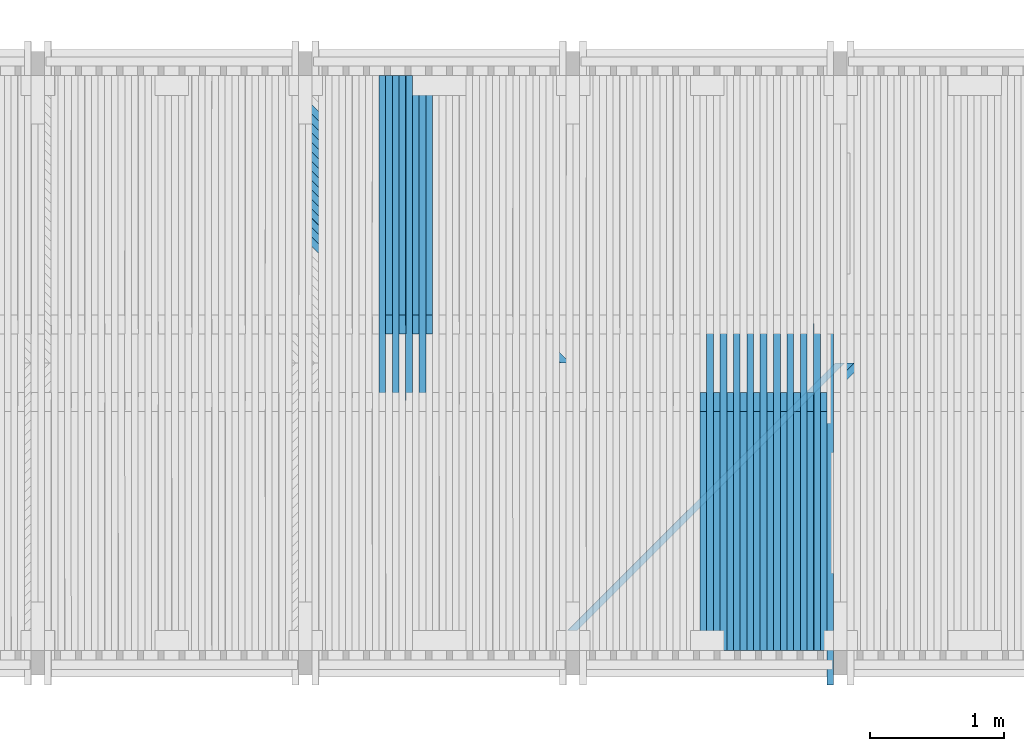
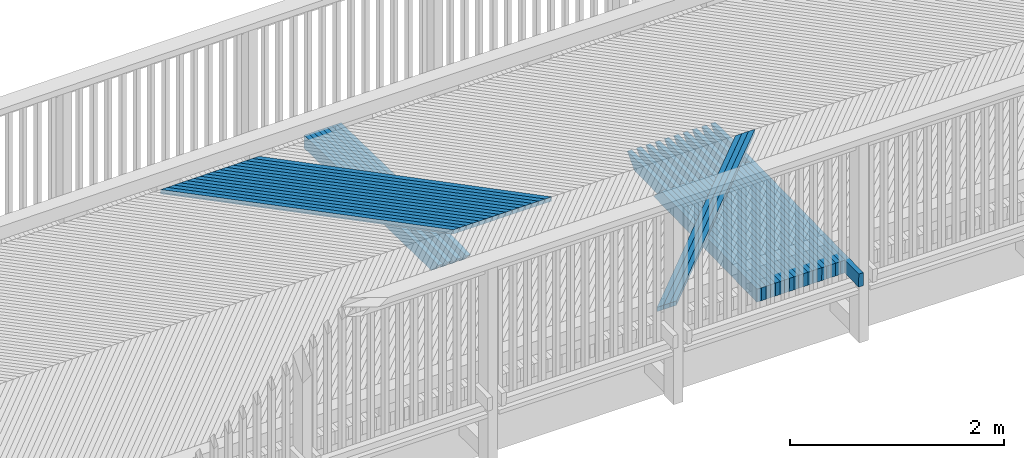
# One storey, part 24 of 52: 46 beams.
"""IFC2X3 building model written with IfcOpenShell, lengths in millimetres."""

from ifc_helpers import new_model, si_unit, frame, origin_with_axes, place, context, subcontext, project, spatial, faceted_brep, material, type_object, element, save


model = new_model("IFC2X3")

# Units and contexts
model_context = context("Model", 3, precision=1e-05, world=origin_with_axes())
body_context = subcontext(model_context, "Body", "Model", "MODEL_VIEW")
ifc_project = project(units=[si_unit("LENGTHUNIT", "METRE", prefix="MILLI"), si_unit("AREAUNIT", "SQUARE_METRE"), si_unit("VOLUMEUNIT", "CUBIC_METRE"), si_unit("MASSUNIT", "GRAM", prefix="KILO"), si_unit("TIMEUNIT", "SECOND"), si_unit("PLANEANGLEUNIT", "RADIAN"), si_unit("SOLIDANGLEUNIT", "STERADIAN"), si_unit("THERMODYNAMICTEMPERATUREUNIT", "DEGREE_CELSIUS"), si_unit("LUMINOUSINTENSITYUNIT", "LUMEN")], contexts=[model_context])

# Site, building, storey
site_placement = place(None, origin_with_axes())
site = spatial("IfcSite", under=ifc_project, at=site_placement, Name="Undefined", CompositionType="ELEMENT")
building_placement = place(site_placement, origin_with_axes())
building = spatial("IfcBuilding", under=site, at=building_placement, Name="Undefined", CompositionType="ELEMENT")
storey_placement = place(building_placement, origin_with_axes())
storey = spatial("IfcBuildingStorey", under=building, at=storey_placement, Name="Undefined", CompositionType="ELEMENT", Elevation=0.0)

# Beams
ifc_material = material(Name="TIMBER/Timber_Undefined")
beam_type_1 = type_object("IfcBeamType", Name="50*50", PredefinedType="NOTDEFINED")
for number, where, z_axis, x_axis, name in (
    (1, (8135.80655611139, 2364.50010032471, 3236.10674438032), (0.707111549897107, -0.706981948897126, -0.0130299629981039), (-0.707100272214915, -0.706948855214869, -0.0152486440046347), "BEAM"),
    (2, (8065.0823236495, 2364.50010032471, 3236.11854265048), (0.70711307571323, -0.706981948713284, -0.0129469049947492), (-0.70709847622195, -0.706948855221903, -0.0153317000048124), "BEAM"),
    (3, (7994.35809028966, 2364.50010032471, 3236.12203360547), (0.707114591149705, -0.706981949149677, -0.0128638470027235), (-0.707096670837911, -0.706948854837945, -0.0154147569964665), "BEAM"),
):
    element("IfcBeam", number, at=place(storey_placement, frame(where, z_axis=z_axis, x_axis=x_axis)), inside=storey, type_object=beam_type_1, material=ifc_material, Name=name, ObjectType="50*50", context=body_context, shape_type="Brep", body=[
        faceted_brep([(24.894245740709, 25.0, -25.0), (-25.0086637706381, 24.9999999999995, 24.9999999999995), (2804.3406783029, 25.0000000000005, 25.0000000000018), (2854.34301907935, 25.0, -24.9999999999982), (-26.4222658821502, -25.0, 24.9999999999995), (2802.92643296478, -25.0, 25.0000000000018), (23.4806436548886, -25.0, -25.0), (2852.92877373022, -25.0, -24.9999999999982)], [[[0, 1, 2, 3]], [[1, 4, 5, 2]], [[4, 6, 7, 5]], [[6, 0, 3, 7]], [[5, 7, 3, 2]], [[6, 4, 1, 0]]]),
    ])
for number, where, z_axis, x_axis, name in (
    (4, (5943.35931839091, 2365.49989967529, 3232.6095926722), (0.70715430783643, 0.706981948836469, -0.0104550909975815), (-0.707040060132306, 0.706948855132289, -0.0178232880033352), "BEAM"),
    (5, (5872.63551183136, 2365.49989967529, 3232.36386467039), (0.707155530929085, 0.706981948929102, -0.0103720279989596), (-0.707037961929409, 0.706948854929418, -0.0179063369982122), "BEAM"),
    (6, (5801.91173462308, 2365.49989967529, 3232.10982940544), (0.707156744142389, 0.706981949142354, -0.0102889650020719), (-0.707035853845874, 0.706948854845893, -0.0179893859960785), "BEAM"),
    (7, (5731.18798774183, 2365.49989967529, 3231.84748688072), (0.707157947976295, 0.706981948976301, -0.010205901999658), (-0.707033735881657, 0.706948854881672, -0.0180724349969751), "BEAM"),
    (8, (5660.46427216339, 2365.49989967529, 3231.57683709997), (0.707159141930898, 0.706981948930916, -0.0101228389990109), (-0.707031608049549, 0.706948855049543, -0.0181554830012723), "BEAM"),
    (9, (5589.74058886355, 2365.49989967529, 3231.29788006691), (0.707160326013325, 0.706981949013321, -0.0100397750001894), (-0.707029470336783, 0.706948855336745, -0.0182385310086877), "BEAM"),
    (10, (5519.01693881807, 2365.49989967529, 3231.01061578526), (0.707161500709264, 0.706981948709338, -0.00995671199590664), (-0.707027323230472, 0.706948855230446, -0.0183215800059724), "BEAM"),
    (11, (5448.29332300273, 2365.49989967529, 3230.71504425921), (0.707162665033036, 0.706981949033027, -0.00987364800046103), (-0.707025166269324, 0.706948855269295, -0.0184046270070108), "BEAM"),
    (12, (5377.5697423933, 2365.49989967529, 3230.41116549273), (0.707163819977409, 0.706981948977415, -0.00979058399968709), (-0.70702299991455, 0.70694885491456, -0.0184876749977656), "BEAM"),
    (13, (5306.84619796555, 2365.49989967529, 3230.09897948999), (0.707164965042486, 0.706981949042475, -0.00970752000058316), (-0.707020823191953, 0.706948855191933, -0.0185707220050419), "BEAM"),
    (14, (5236.12269069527, 2365.49989967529, 3229.77848625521), (0.707166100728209, 0.70698194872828, -0.00962445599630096), (-0.707018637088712, 0.706948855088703, -0.0186537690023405), "BEAM"),
    (15, (5165.39922155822, 2365.49989967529, 3229.44968579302), (0.707167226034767, 0.706981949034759, -0.00954139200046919), (-0.707016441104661, 0.706948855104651, -0.0187368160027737), "BEAM"),
    (16, (5094.67579153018, 2365.49989967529, 3229.11257810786), (0.707168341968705, 0.706981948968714, -0.00945832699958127), (-0.70701423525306, 0.706948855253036, -0.0188198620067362), "BEAM"),
    (17, (5023.95240158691, 2365.49989967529, 3228.76716320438), (0.707169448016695, 0.706981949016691, -0.00937526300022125), (-0.70701202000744, 0.706948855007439, -0.0189029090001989), "BEAM"),
    (18, (4953.22905270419, 2365.49989967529, 3228.41344108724), (0.707170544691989, 0.706981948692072, -0.00929219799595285), (-0.70700979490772, 0.706948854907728, -0.018985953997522), "BEAM"),
):
    element("IfcBeam", number, at=place(storey_placement, frame(where, z_axis=z_axis, x_axis=x_axis)), inside=storey, type_object=beam_type_1, material=ifc_material, Name=name, ObjectType="50*50", context=body_context, shape_type="Brep", body=[
        faceted_brep([(23.5869248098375, 25.0, -25.0000000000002), (-26.4154158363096, 25.0000000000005, 24.9999999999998), (2802.92643296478, 25.0, 24.9999999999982), (2852.92877373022, 25.0000000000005, -25.0), (-25.0011704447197, -25.0, 24.9999999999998), (2804.3406783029, -25.0000000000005, 24.9999999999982), (25.0011701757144, -25.0, -25.0), (2854.34301907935, -24.9999999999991, -25.0)], [[[0, 1, 2, 3]], [[1, 4, 5, 2]], [[4, 6, 7, 5]], [[6, 0, 3, 7]], [[5, 7, 3, 2]], [[6, 4, 1, 0]]]),
    ])
beam_type_2 = type_object("IfcBeamType", Name="150*50", PredefinedType="NOTDEFINED")
for number, where, z_axis, x_axis, name in (
    (19, (7875.75102646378, 216.50460761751, 3093.13715307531), (-0.000287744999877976, -0.0199960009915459, 0.999800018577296), (-5.75600000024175e-06, 0.999800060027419, 0.0199959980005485), "BEAM"),
    (20, (7775.73099692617, 216.50460761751, 3093.10819901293), (-0.000453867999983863, -0.0199960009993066, 0.999799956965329), (-9.07800000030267e-06, 0.999800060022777, 0.0199959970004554), "BEAM"),
):
    element("IfcBeam", number, at=place(storey_placement, frame(where, z_axis=z_axis, x_axis=x_axis)), inside=storey, type_object=beam_type_2, material=ifc_material, Name=name, ObjectType="150*50", context=body_context, shape_type="Brep", body=[
        faceted_brep([(-1.67788130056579e-07, -24.9999999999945, -74.9999999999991), (1.67786311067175e-07, -24.9999999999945, 75.0000000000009), (1.67786311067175e-07, 25.0000000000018, 75.0), (-1.67787220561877e-07, 25.0000000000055, -75.0), (1928.42646353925, -25.0, -75.0), (1789.96936433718, -25.0000000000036, 74.9999999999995), (1789.96936408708, 24.9999999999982, 75.0000000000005), (1928.42646328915, 24.9999999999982, -74.9999999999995)], [[[0, 1, 2, 3]], [[1, 0, 4, 5]], [[2, 1, 5, 6]], [[3, 2, 6, 7]], [[0, 3, 7, 4]], [[7, 6, 5, 4]]]),
    ])
beam_1_placement = place(storey_placement, frame((7825.75102780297, 216.504607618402, 3093.12259668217), z_axis=(-0.000287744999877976, -0.0199960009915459, 0.999800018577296), x_axis=(-5.75600000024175e-06, 0.999800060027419, 0.0199959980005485)))
element("IfcBeam", 21, at=beam_1_placement, inside=storey, type_object=beam_type_2, material=ifc_material, Name="BEAM", ObjectType="150*50", context=body_context, shape_type="Brep", body=[
    faceted_brep([(-1.67788130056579e-07, -24.9999999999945, -74.9999999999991), (1.67786311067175e-07, -24.9999999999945, 75.0000000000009), (1.67786311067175e-07, 25.0000000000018, 75.0), (-1.67787220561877e-07, 25.0000000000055, -75.0), (2375.00494422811, 25.0000000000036, -74.9999999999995), (2375.0049444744, -24.9999999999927, -74.9999999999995), (2510.5924871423, -24.9999999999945, 60.5875430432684), (2150.42514405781, -24.9999999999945, 75.0000000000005), (2150.42515052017, 25.0000000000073, 75.0), (2510.59248715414, 25.0000000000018, 60.5875433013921)], [[[0, 1, 2, 3]], [[0, 3, 4, 5]], [[1, 0, 5, 6, 7]], [[2, 1, 7, 8]], [[4, 3, 2, 8, 9]], [[5, 4, 9, 6]], [[6, 9, 8, 7]]]),
])
beam_2_placement = place(storey_placement, frame((7675.71097358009, 216.50460761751, 3093.06262608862), z_axis=(-0.000619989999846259, -0.0199960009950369, 0.999799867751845), x_axis=(-1.24010000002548e-05, 0.99980006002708, 0.0199959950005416)))
element("IfcBeam", 22, at=beam_2_placement, inside=storey, type_object=beam_type_2, material=ifc_material, Name="BEAM", ObjectType="150*50", context=body_context, shape_type="Brep", body=[
    faceted_brep([(-1.67788130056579e-07, -24.9999999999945, -74.9999999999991), (1.67786311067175e-07, -24.9999999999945, 75.0000000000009), (1.67786311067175e-07, 25.0000000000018, 75.0), (-1.67787220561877e-07, 25.0000000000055, -75.0), (1928.42646353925, -25.0, -75.0), (1789.96936433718, -25.0000000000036, 74.9999999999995), (1789.96936408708, 24.9999999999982, 75.0000000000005), (1928.42646328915, 24.9999999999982, -74.9999999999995)], [[[0, 1, 2, 3]], [[1, 0, 4, 5]], [[2, 1, 5, 6]], [[3, 2, 6, 7]], [[0, 3, 7, 4]], [[7, 6, 5, 4]]]),
])
beam_3_placement = place(storey_placement, frame((7725.73100137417, 216.504607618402, 3093.08533485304), z_axis=(-0.000453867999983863, -0.0199960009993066, 0.999799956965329), x_axis=(-9.07800000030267e-06, 0.999800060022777, 0.0199959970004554)))
element("IfcBeam", 23, at=beam_3_placement, inside=storey, type_object=beam_type_2, material=ifc_material, Name="BEAM", ObjectType="150*50", context=body_context, shape_type="Brep", body=[
    faceted_brep([(-1.67788130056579e-07, -24.9999999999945, -74.9999999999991), (1.67786311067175e-07, -24.9999999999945, 75.0000000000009), (1.67786311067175e-07, 25.0000000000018, 75.0), (-1.67787220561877e-07, 25.0000000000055, -75.0), (2375.00494422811, 25.0000000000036, -74.9999999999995), (2375.0049444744, -24.9999999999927, -74.9999999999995), (2510.5924871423, -24.9999999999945, 60.5875430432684), (2150.42514405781, -24.9999999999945, 75.0000000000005), (2150.42515052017, 25.0000000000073, 75.0), (2510.59248715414, 25.0000000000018, 60.5875433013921)], [[[0, 1, 2, 3]], [[0, 3, 4, 5]], [[1, 0, 5, 6, 7]], [[2, 1, 7, 8]], [[4, 3, 2, 8, 9]], [[5, 4, 9, 6]], [[6, 9, 8, 7]]]),
])
beam_4_placement = place(storey_placement, frame((7575.69095918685, 216.50460761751, 3093.00043430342), z_axis=(-0.00078611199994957, -0.019996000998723, 0.999799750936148), x_axis=(-1.57230000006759e-05, 0.999800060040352, 0.019995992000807)))
element("IfcBeam", 24, at=beam_4_placement, inside=storey, type_object=beam_type_2, material=ifc_material, Name="BEAM", ObjectType="150*50", context=body_context, shape_type="Brep", body=[
    faceted_brep([(-1.67788130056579e-07, -24.9999999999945, -74.9999999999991), (1.67786311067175e-07, -24.9999999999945, 75.0000000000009), (1.67786311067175e-07, 25.0000000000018, 75.0), (-1.67787220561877e-07, 25.0000000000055, -75.0), (1928.42646353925, -25.0, -75.0), (1789.96936433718, -25.0000000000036, 74.9999999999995), (1789.96936408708, 24.9999999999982, 75.0000000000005), (1928.42646328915, 24.9999999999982, -74.9999999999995)], [[[0, 1, 2, 3]], [[1, 0, 4, 5]], [[2, 1, 5, 6]], [[3, 2, 6, 7]], [[0, 3, 7, 4]], [[7, 6, 5, 4]]]),
])
beam_5_placement = place(storey_placement, frame((7625.71098251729, 216.504607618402, 3093.03145416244), z_axis=(-0.000619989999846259, -0.0199960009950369, 0.999799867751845), x_axis=(-1.24010000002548e-05, 0.99980006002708, 0.0199959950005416)))
element("IfcBeam", 25, at=beam_5_placement, inside=storey, type_object=beam_type_2, material=ifc_material, Name="BEAM", ObjectType="150*50", context=body_context, shape_type="Brep", body=[
    faceted_brep([(-1.67788130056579e-07, -24.9999999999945, -74.9999999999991), (1.67786311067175e-07, -24.9999999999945, 75.0000000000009), (1.67786311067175e-07, 25.0000000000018, 75.0), (-1.67787220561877e-07, 25.0000000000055, -75.0), (2375.00494422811, 25.0000000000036, -74.9999999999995), (2375.0049444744, -24.9999999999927, -74.9999999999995), (2510.5924871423, -24.9999999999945, 60.5875430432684), (2150.42514405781, -24.9999999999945, 75.0000000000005), (2150.42515052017, 25.0000000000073, 75.0), (2510.59248715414, 25.0000000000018, 60.5875433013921)], [[[0, 1, 2, 3]], [[0, 3, 4, 5]], [[1, 0, 5, 6, 7]], [[2, 1, 7, 8]], [[4, 3, 2, 8, 9]], [[5, 4, 9, 6]], [[6, 9, 8, 7]]]),
])
beam_6_placement = place(storey_placement, frame((7475.67095650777, 216.50460761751, 3092.92162365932), z_axis=(-0.000952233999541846, -0.0199960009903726, 0.999799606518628), x_axis=(-1.90460000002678e-05, 0.999800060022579, 0.0199959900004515)))
element("IfcBeam", 26, at=beam_6_placement, inside=storey, type_object=beam_type_2, material=ifc_material, Name="BEAM", ObjectType="150*50", context=body_context, shape_type="Brep", body=[
    faceted_brep([(-1.67788130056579e-07, -24.9999999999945, -74.9999999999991), (1.67786311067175e-07, -24.9999999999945, 75.0000000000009), (1.67786311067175e-07, 25.0000000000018, 75.0), (-1.67787220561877e-07, 25.0000000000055, -75.0), (1928.42646353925, -25.0, -75.0), (1789.96936433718, -25.0000000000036, 74.9999999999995), (1789.96936408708, 24.9999999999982, 75.0000000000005), (1928.42646328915, 24.9999999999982, -74.9999999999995)], [[[0, 1, 2, 3]], [[1, 0, 4, 5]], [[2, 1, 5, 6]], [[3, 2, 6, 7]], [[0, 3, 7, 4]], [[7, 6, 5, 4]]]),
])
beam_7_placement = place(storey_placement, frame((7525.69097399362, 216.504607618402, 3092.96095461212), z_axis=(-0.00078611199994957, -0.019996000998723, 0.999799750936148), x_axis=(-1.57230000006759e-05, 0.999800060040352, 0.019995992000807)))
element("IfcBeam", 27, at=beam_7_placement, inside=storey, type_object=beam_type_2, material=ifc_material, Name="BEAM", ObjectType="150*50", context=body_context, shape_type="Brep", body=[
    faceted_brep([(-1.67788130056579e-07, -24.9999999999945, -74.9999999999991), (1.67786311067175e-07, -24.9999999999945, 75.0000000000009), (1.67786311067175e-07, 25.0000000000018, 75.0), (-1.67787220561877e-07, 25.0000000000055, -75.0), (2375.00494422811, 25.0000000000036, -74.9999999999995), (2375.0049444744, -24.9999999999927, -74.9999999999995), (2510.5924871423, -24.9999999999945, 60.5875430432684), (2150.42514405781, -24.9999999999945, 75.0000000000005), (2150.42515052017, 25.0000000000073, 75.0), (2510.59248715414, 25.0000000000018, 60.5875433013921)], [[[0, 1, 2, 3]], [[0, 3, 4, 5]], [[1, 0, 5, 6, 7]], [[2, 1, 7, 8]], [[4, 3, 2, 8, 9]], [[5, 4, 9, 6]], [[6, 9, 8, 7]]]),
])
beam_8_placement = place(storey_placement, frame((7375.65096830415, 216.50460761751, 3092.82619415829), z_axis=(-0.00111835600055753, -0.0199960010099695, 0.999799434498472), x_axis=(-2.23680000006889e-05, 0.999800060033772, 0.0199959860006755)))
element("IfcBeam", 28, at=beam_8_placement, inside=storey, type_object=beam_type_2, material=ifc_material, Name="BEAM", ObjectType="150*50", context=body_context, shape_type="Brep", body=[
    faceted_brep([(-1.67788130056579e-07, -24.9999999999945, -74.9999999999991), (1.67786311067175e-07, -24.9999999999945, 75.0000000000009), (1.67786311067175e-07, 25.0000000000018, 75.0), (-1.67787220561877e-07, 25.0000000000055, -75.0), (1928.42646353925, -25.0, -75.0), (1789.96936433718, -25.0000000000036, 74.9999999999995), (1789.96936408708, 24.9999999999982, 75.0000000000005), (1928.42646328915, 24.9999999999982, -74.9999999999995)], [[[0, 1, 2, 3]], [[1, 0, 4, 5]], [[2, 1, 5, 6]], [[3, 2, 6, 7]], [[0, 3, 7, 4]], [[7, 6, 5, 4]]]),
])
beam_9_placement = place(storey_placement, frame((7425.67097856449, 216.504607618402, 3092.87383620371), z_axis=(-0.000952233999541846, -0.0199960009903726, 0.999799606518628), x_axis=(-1.90460000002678e-05, 0.999800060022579, 0.0199959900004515)))
element("IfcBeam", 29, at=beam_9_placement, inside=storey, type_object=beam_type_2, material=ifc_material, Name="BEAM", ObjectType="150*50", context=body_context, shape_type="Brep", body=[
    faceted_brep([(-1.67788130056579e-07, -24.9999999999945, -74.9999999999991), (1.67786311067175e-07, -24.9999999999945, 75.0000000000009), (1.67786311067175e-07, 25.0000000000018, 75.0), (-1.67787220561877e-07, 25.0000000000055, -75.0), (2375.00494422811, 25.0000000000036, -74.9999999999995), (2375.0049444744, -24.9999999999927, -74.9999999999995), (2510.5924871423, -24.9999999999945, 60.5875430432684), (2150.42514405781, -24.9999999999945, 75.0000000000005), (2150.42515052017, 25.0000000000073, 75.0), (2510.59248715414, 25.0000000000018, 60.5875433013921)], [[[0, 1, 2, 3]], [[0, 3, 4, 5]], [[1, 0, 5, 6, 7]], [[2, 1, 7, 8]], [[4, 3, 2, 8, 9]], [[5, 4, 9, 6]], [[6, 9, 8, 7]]]),
])
beam_10_placement = place(storey_placement, frame((7275.63099733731, 216.50460761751, 3092.71414580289), z_axis=(-0.00128447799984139, -0.0199960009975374, 0.99979923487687), x_axis=(-2.56900000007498e-05, 0.999800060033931, 0.0199959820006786)))
element("IfcBeam", 30, at=beam_10_placement, inside=storey, type_object=beam_type_2, material=ifc_material, Name="BEAM", ObjectType="150*50", context=body_context, shape_type="Brep", body=[
    faceted_brep([(-1.67788130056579e-07, -24.9999999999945, -74.9999999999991), (1.67786311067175e-07, -24.9999999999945, 75.0000000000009), (1.67786311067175e-07, 25.0000000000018, 75.0), (-1.67787220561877e-07, 25.0000000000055, -75.0), (1928.42646353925, -25.0, -75.0), (1789.96936433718, -25.0000000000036, 74.9999999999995), (1789.96936408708, 24.9999999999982, 75.0000000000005), (1928.42646328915, 24.9999999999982, -74.9999999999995)], [[[0, 1, 2, 3]], [[1, 0, 4, 5]], [[2, 1, 5, 6]], [[3, 2, 6, 7]], [[0, 3, 7, 4]], [[7, 6, 5, 4]]]),
])
beam_11_placement = place(storey_placement, frame((7325.6509989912, 216.504607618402, 3092.77009893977), z_axis=(-0.00111835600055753, -0.0199960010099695, 0.999799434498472), x_axis=(-2.23680000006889e-05, 0.999800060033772, 0.0199959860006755)))
element("IfcBeam", 31, at=beam_11_placement, inside=storey, type_object=beam_type_2, material=ifc_material, Name="BEAM", ObjectType="150*50", context=body_context, shape_type="Brep", body=[
    faceted_brep([(-1.67788130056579e-07, -24.9999999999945, -74.9999999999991), (1.67786311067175e-07, -24.9999999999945, 75.0000000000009), (1.67786311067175e-07, 25.0000000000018, 75.0), (-1.67787220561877e-07, 25.0000000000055, -75.0), (2375.00494422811, 25.0000000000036, -74.9999999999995), (2375.0049444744, -24.9999999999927, -74.9999999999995), (2510.5924871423, -24.9999999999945, 60.5875430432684), (2150.42514405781, -24.9999999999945, 75.0000000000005), (2150.42515052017, 25.0000000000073, 75.0), (2510.59248715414, 25.0000000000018, 60.5875433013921)], [[[0, 1, 2, 3]], [[0, 3, 4, 5]], [[1, 0, 5, 6, 7]], [[2, 1, 7, 8]], [[4, 3, 2, 8, 9]], [[5, 4, 9, 6]], [[6, 9, 8, 7]]]),
])
beam_12_placement = place(storey_placement, frame((7175.61104636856, 216.50460761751, 3092.58547859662), z_axis=(-0.00145059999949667, -0.01999600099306, 0.999799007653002), x_axis=(-2.90130000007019e-05, 0.999800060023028, 0.0199959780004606)))
element("IfcBeam", 32, at=beam_12_placement, inside=storey, type_object=beam_type_2, material=ifc_material, Name="BEAM", ObjectType="150*50", context=body_context, shape_type="Brep", body=[
    faceted_brep([(-1.67788130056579e-07, -24.9999999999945, -74.9999999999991), (1.67786311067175e-07, -24.9999999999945, 75.0000000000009), (1.67786311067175e-07, 25.0000000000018, 75.0), (-1.67787220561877e-07, 25.0000000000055, -75.0), (1928.42646353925, -25.0, -75.0), (1789.96936433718, -25.0000000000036, 74.9999999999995), (1789.96936408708, 24.9999999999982, 75.0000000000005), (1928.42646328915, 24.9999999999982, -74.9999999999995)], [[[0, 1, 2, 3]], [[1, 0, 4, 5]], [[2, 1, 5, 6]], [[3, 2, 6, 7]], [[0, 3, 7, 4]], [[7, 6, 5, 4]]]),
])
beam_13_placement = place(storey_placement, frame((7225.63103803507, 216.504607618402, 3092.64974282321), z_axis=(-0.00128447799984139, -0.0199960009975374, 0.99979923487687), x_axis=(-2.56900000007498e-05, 0.999800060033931, 0.0199959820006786)))
element("IfcBeam", 33, at=beam_13_placement, inside=storey, type_object=beam_type_2, material=ifc_material, Name="BEAM", ObjectType="150*50", context=body_context, shape_type="Brep", body=[
    faceted_brep([(-1.67788130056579e-07, -24.9999999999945, -74.9999999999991), (1.67786311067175e-07, -24.9999999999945, 75.0000000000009), (1.67786311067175e-07, 25.0000000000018, 75.0), (-1.67787220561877e-07, 25.0000000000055, -75.0), (2375.00494422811, 25.0000000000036, -74.9999999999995), (2375.0049444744, -24.9999999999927, -74.9999999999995), (2510.5924871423, -24.9999999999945, 60.5875430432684), (2150.42514405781, -24.9999999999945, 75.0000000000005), (2150.42515052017, 25.0000000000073, 75.0), (2510.59248715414, 25.0000000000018, 60.5875433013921)], [[[0, 1, 2, 3]], [[0, 3, 4, 5]], [[1, 0, 5, 6, 7]], [[2, 1, 7, 8]], [[4, 3, 2, 8, 9]], [[5, 4, 9, 6]], [[6, 9, 8, 7]]]),
])
beam_14_placement = place(storey_placement, frame((7075.5911181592, 216.50460761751, 3092.44019254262), z_axis=(-0.00161672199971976, -0.019996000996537, 0.999798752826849), x_axis=(-3.23350000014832e-05, 0.999800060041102, 0.019995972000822)))
element("IfcBeam", 34, at=beam_14_placement, inside=storey, type_object=beam_type_2, material=ifc_material, Name="BEAM", ObjectType="150*50", context=body_context, shape_type="Brep", body=[
    faceted_brep([(-1.67788130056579e-07, -24.9999999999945, -74.9999999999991), (1.67786311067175e-07, -24.9999999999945, 75.0000000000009), (1.67786311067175e-07, 25.0000000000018, 75.0), (-1.67787220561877e-07, 25.0000000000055, -75.0), (1928.42646353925, -25.0, -75.0), (1789.96936433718, -25.0000000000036, 74.9999999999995), (1789.96936408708, 24.9999999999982, 75.0000000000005), (1928.42646328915, 24.9999999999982, -74.9999999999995)], [[[0, 1, 2, 3]], [[1, 0, 4, 5]], [[2, 1, 5, 6]], [[3, 2, 6, 7]], [[0, 3, 7, 4]], [[7, 6, 5, 4]]]),
])
beam_15_placement = place(storey_placement, frame((7125.61109845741, 216.504607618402, 3092.51276785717), z_axis=(-0.00145059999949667, -0.01999600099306, 0.999799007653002), x_axis=(-2.90130000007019e-05, 0.999800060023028, 0.0199959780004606)))
element("IfcBeam", 35, at=beam_15_placement, inside=storey, type_object=beam_type_2, material=ifc_material, Name="BEAM", ObjectType="150*50", context=body_context, shape_type="Brep", body=[
    faceted_brep([(-1.67788130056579e-07, -24.9999999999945, -74.9999999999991), (1.67786311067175e-07, -24.9999999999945, 75.0000000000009), (1.67786311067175e-07, 25.0000000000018, 75.0), (-1.67787220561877e-07, 25.0000000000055, -75.0), (2375.00494422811, 25.0000000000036, -74.9999999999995), (2375.0049444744, -24.9999999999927, -74.9999999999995), (2510.5924871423, -24.9999999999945, 60.5875430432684), (2150.42514405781, -24.9999999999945, 75.0000000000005), (2150.42515052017, 25.0000000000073, 75.0), (2510.59248715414, 25.0000000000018, 60.5875433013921)], [[[0, 1, 2, 3]], [[0, 3, 4, 5]], [[1, 0, 5, 6, 7]], [[2, 1, 7, 8]], [[4, 3, 2, 8, 9]], [[5, 4, 9, 6]], [[6, 9, 8, 7]]]),
])
beam_16_placement = place(storey_placement, frame((6975.57121547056, 216.50460761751, 3092.27828764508), z_axis=(-0.0017828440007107, -0.0199960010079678, 0.999798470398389), x_axis=(-3.56580000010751e-05, 0.999800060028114, 0.0199959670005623)))
element("IfcBeam", 36, at=beam_16_placement, inside=storey, type_object=beam_type_2, material=ifc_material, Name="BEAM", ObjectType="150*50", context=body_context, shape_type="Brep", body=[
    faceted_brep([(-1.67788130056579e-07, -24.9999999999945, -74.9999999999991), (1.67786311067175e-07, -24.9999999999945, 75.0000000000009), (1.67786311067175e-07, 25.0000000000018, 75.0), (-1.67787220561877e-07, 25.0000000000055, -75.0), (1928.42646353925, -25.0, -75.0), (1789.96936433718, -25.0000000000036, 74.9999999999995), (1789.96936408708, 24.9999999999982, 75.0000000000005), (1928.42646328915, 24.9999999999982, -74.9999999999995)], [[[0, 1, 2, 3]], [[1, 0, 4, 5]], [[2, 1, 5, 6]], [[3, 2, 6, 7]], [[0, 3, 7, 4]], [[7, 6, 5, 4]]]),
])
beam_17_placement = place(storey_placement, frame((7025.59118301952, 216.504607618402, 3092.35917404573), z_axis=(-0.00161672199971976, -0.019996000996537, 0.999798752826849), x_axis=(-3.23350000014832e-05, 0.999800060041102, 0.019995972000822)))
element("IfcBeam", 37, at=beam_17_placement, inside=storey, type_object=beam_type_2, material=ifc_material, Name="BEAM", ObjectType="150*50", context=body_context, shape_type="Brep", body=[
    faceted_brep([(-1.67788130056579e-07, -24.9999999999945, -74.9999999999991), (1.67786311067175e-07, -24.9999999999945, 75.0000000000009), (1.67786311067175e-07, 25.0000000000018, 75.0), (-1.67787220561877e-07, 25.0000000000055, -75.0), (2375.00494422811, 25.0000000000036, -74.9999999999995), (2375.0049444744, -24.9999999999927, -74.9999999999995), (2510.5924871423, -24.9999999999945, 60.5875430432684), (2150.42514405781, -24.9999999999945, 75.0000000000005), (2150.42515052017, 25.0000000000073, 75.0), (2510.59248715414, 25.0000000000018, 60.5875433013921)], [[[0, 1, 2, 3]], [[0, 3, 4, 5]], [[1, 0, 5, 6, 7]], [[2, 1, 7, 8]], [[4, 3, 2, 8, 9]], [[5, 4, 9, 6]], [[6, 9, 8, 7]]]),
])
beam_18_placement = place(storey_placement, frame((4875.76404356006, 4513.4953923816, 3085.04044053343), z_axis=(-0.00527138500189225, 0.0199960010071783, 0.999786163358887), x_axis=(-0.000105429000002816, -0.999800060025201, 0.019995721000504)))
element("IfcBeam", 38, at=beam_18_placement, inside=storey, type_object=beam_type_2, material=ifc_material, Name="BEAM", ObjectType="150*50", context=body_context, shape_type="Brep", body=[
    faceted_brep([(-1.67788130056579e-07, -24.9999999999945, -74.9999999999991), (-1.67787220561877e-07, 25.0000000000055, -75.0), (2375.00494422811, 25.0000000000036, -74.9999999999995), (2375.0049444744, -24.9999999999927, -74.9999999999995), (1.67786311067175e-07, -24.9999999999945, 75.0000000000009), (1.67786311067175e-07, 25.0000000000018, 75.0), (2150.42515052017, 25.0000000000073, 75.0), (2510.59248715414, 25.0000000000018, 60.5875433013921), (2510.5924871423, -24.9999999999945, 60.5875430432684), (2150.42514405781, -24.9999999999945, 75.0000000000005)], [[[0, 1, 2, 3]], [[0, 4, 5, 1]], [[2, 1, 5, 6, 7]], [[3, 2, 7, 8]], [[4, 0, 3, 8, 9]], [[5, 4, 9, 6]], [[8, 7, 6, 9]]]),
])
beam_19_placement = place(storey_placement, frame((4925.78342438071, 4513.49539238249, 3085.29585887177), z_axis=(-0.00510526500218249, 0.0199960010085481, 0.999787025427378), x_axis=(-0.000102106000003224, -0.999800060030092, 0.0199957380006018)))
element("IfcBeam", 39, at=beam_19_placement, inside=storey, type_object=beam_type_2, material=ifc_material, Name="BEAM", ObjectType="150*50", context=body_context, shape_type="Brep", body=[
    faceted_brep([(-1.67788130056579e-07, -24.9999999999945, -74.9999999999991), (1.67786311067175e-07, -24.9999999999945, 75.0000000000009), (1.67786311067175e-07, 25.0000000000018, 75.0), (-1.67787220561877e-07, 25.0000000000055, -75.0), (1928.42646328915, 24.9999999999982, -74.9999999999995), (1928.42646353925, -25.0, -75.0), (1789.96936433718, -25.0000000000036, 74.9999999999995), (1789.96936408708, 24.9999999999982, 75.0000000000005)], [[[0, 1, 2, 3]], [[0, 3, 4, 5]], [[1, 0, 5, 6]], [[2, 1, 6, 7]], [[3, 2, 7, 4]], [[4, 7, 6, 5]]]),
])
beam_20_placement = place(storey_placement, frame((4775.74540074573, 4513.4953923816, 3084.51302271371), z_axis=(-0.00543750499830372, 0.019996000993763, 0.999785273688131), x_axis=(-0.000108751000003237, -0.99980006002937, 0.0199957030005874)))
element("IfcBeam", 40, at=beam_20_placement, inside=storey, type_object=beam_type_2, material=ifc_material, Name="BEAM", ObjectType="150*50", context=body_context, shape_type="Brep", body=[
    faceted_brep([(-1.67788130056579e-07, -24.9999999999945, -74.9999999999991), (-1.67787220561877e-07, 25.0000000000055, -75.0), (2375.00494422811, 25.0000000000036, -74.9999999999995), (2375.0049444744, -24.9999999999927, -74.9999999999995), (1.67786311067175e-07, -24.9999999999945, 75.0000000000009), (1.67786311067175e-07, 25.0000000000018, 75.0), (2150.42515052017, 25.0000000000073, 75.0), (2510.59248715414, 25.0000000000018, 60.5875433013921), (2510.5924871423, -24.9999999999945, 60.5875430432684), (2150.42514405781, -24.9999999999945, 75.0000000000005)], [[[0, 1, 2, 3]], [[0, 4, 5, 1]], [[2, 1, 5, 6, 7]], [[3, 2, 7, 8]], [[4, 0, 3, 8, 9]], [[5, 4, 9, 6]], [[8, 7, 6, 9]]]),
])
beam_21_placement = place(storey_placement, frame((4825.7647384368, 4513.49539238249, 3084.77675203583), z_axis=(-0.00527138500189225, 0.0199960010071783, 0.999786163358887), x_axis=(-0.000105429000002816, -0.999800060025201, 0.019995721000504)))
element("IfcBeam", 41, at=beam_21_placement, inside=storey, type_object=beam_type_2, material=ifc_material, Name="BEAM", ObjectType="150*50", context=body_context, shape_type="Brep", body=[
    faceted_brep([(-1.67788130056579e-07, -24.9999999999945, -74.9999999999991), (1.67786311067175e-07, -24.9999999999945, 75.0000000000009), (1.67786311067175e-07, 25.0000000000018, 75.0), (-1.67787220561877e-07, 25.0000000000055, -75.0), (1928.42646328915, 24.9999999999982, -74.9999999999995), (1928.42646353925, -25.0, -75.0), (1789.96936433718, -25.0000000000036, 74.9999999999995), (1789.96936408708, 24.9999999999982, 75.0000000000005)], [[[0, 1, 2, 3]], [[0, 3, 4, 5]], [[1, 0, 5, 6]], [[2, 1, 6, 7]], [[3, 2, 7, 4]], [[4, 7, 6, 5]]]),
])
beam_22_placement = place(storey_placement, frame((4675.72684694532, 4513.4953923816, 3083.96898626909), z_axis=(-0.0056036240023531, 0.0199960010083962, 0.999784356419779), x_axis=(-0.000112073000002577, -0.999800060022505, 0.0199956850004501)))
element("IfcBeam", 42, at=beam_22_placement, inside=storey, type_object=beam_type_2, material=ifc_material, Name="BEAM", ObjectType="150*50", context=body_context, shape_type="Brep", body=[
    faceted_brep([(-1.67788130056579e-07, -24.9999999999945, -74.9999999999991), (-1.67787220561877e-07, 25.0000000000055, -75.0), (2375.00494422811, 25.0000000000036, -74.9999999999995), (2375.0049444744, -24.9999999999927, -74.9999999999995), (1.67786311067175e-07, -24.9999999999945, 75.0000000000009), (1.67786311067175e-07, 25.0000000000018, 75.0), (2150.42515052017, 25.0000000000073, 75.0), (2510.59248715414, 25.0000000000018, 60.5875433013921), (2510.5924871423, -24.9999999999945, 60.5875430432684), (2150.42514405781, -24.9999999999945, 75.0000000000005)], [[[0, 1, 2, 3]], [[0, 4, 5, 1]], [[2, 1, 5, 6, 7]], [[3, 2, 7, 8]], [[4, 0, 3, 8, 9]], [[5, 4, 9, 6]], [[8, 7, 6, 9]]]),
])
beam_23_placement = place(storey_placement, frame((4725.7461401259, 4513.49539238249, 3084.24102656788), z_axis=(-0.00543750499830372, 0.019996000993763, 0.999785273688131), x_axis=(-0.000108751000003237, -0.99980006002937, 0.0199957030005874)))
element("IfcBeam", 43, at=beam_23_placement, inside=storey, type_object=beam_type_2, material=ifc_material, Name="BEAM", ObjectType="150*50", context=body_context, shape_type="Brep", body=[
    faceted_brep([(-1.67788130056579e-07, -24.9999999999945, -74.9999999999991), (1.67786311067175e-07, -24.9999999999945, 75.0000000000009), (1.67786311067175e-07, 25.0000000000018, 75.0), (-1.67787220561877e-07, 25.0000000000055, -75.0), (1928.42646328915, 24.9999999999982, -74.9999999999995), (1928.42646353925, -25.0, -75.0), (1789.96936433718, -25.0000000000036, 74.9999999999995), (1789.96936408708, 24.9999999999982, 75.0000000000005)], [[[0, 1, 2, 3]], [[0, 3, 4, 5]], [[1, 0, 5, 6]], [[2, 1, 6, 7]], [[3, 2, 7, 4]], [[4, 7, 6, 5]]]),
])
beam_24_placement = place(storey_placement, frame((4575.70838492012, 4513.4953923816, 3083.40833121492), z_axis=(-0.00576974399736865, 0.0199960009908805, 0.999783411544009), x_axis=(-0.00011539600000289, -0.999800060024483, 0.0199956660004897)))
element("IfcBeam", 44, at=beam_24_placement, inside=storey, type_object=beam_type_2, material=ifc_material, Name="BEAM", ObjectType="150*50", context=body_context, shape_type="Brep", body=[
    faceted_brep([(-1.67788130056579e-07, -24.9999999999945, -74.9999999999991), (-1.67787220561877e-07, 25.0000000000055, -75.0), (2375.00494422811, 25.0000000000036, -74.9999999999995), (2375.0049444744, -24.9999999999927, -74.9999999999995), (1.67786311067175e-07, -24.9999999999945, 75.0000000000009), (1.67786311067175e-07, 25.0000000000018, 75.0), (2150.42515052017, 25.0000000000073, 75.0), (2510.59248715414, 25.0000000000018, 60.5875433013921), (2510.5924871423, -24.9999999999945, 60.5875430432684), (2150.42514405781, -24.9999999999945, 75.0000000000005)], [[[0, 1, 2, 3]], [[0, 4, 5, 1]], [[2, 1, 5, 6, 7]], [[3, 2, 7, 8]], [[4, 0, 3, 8, 9]], [[5, 4, 9, 6]], [[8, 7, 6, 9]]]),
])
beam_25_placement = place(storey_placement, frame((4625.72763220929, 4513.49539238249, 3083.68868248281), z_axis=(-0.0056036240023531, 0.0199960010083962, 0.999784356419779), x_axis=(-0.000112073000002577, -0.999800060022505, 0.0199956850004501)))
element("IfcBeam", 45, at=beam_25_placement, inside=storey, type_object=beam_type_2, material=ifc_material, Name="BEAM", ObjectType="150*50", context=body_context, shape_type="Brep", body=[
    faceted_brep([(-1.67788130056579e-07, -24.9999999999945, -74.9999999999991), (1.67786311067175e-07, -24.9999999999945, 75.0000000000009), (1.67786311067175e-07, 25.0000000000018, 75.0), (-1.67787220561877e-07, 25.0000000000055, -75.0), (1928.42646328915, 24.9999999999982, -74.9999999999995), (1928.42646353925, -25.0, -75.0), (1789.96936433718, -25.0000000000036, 74.9999999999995), (1789.96936408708, 24.9999999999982, 75.0000000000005)], [[[0, 1, 2, 3]], [[0, 3, 4, 5]], [[1, 0, 5, 6]], [[2, 1, 6, 7]], [[3, 2, 7, 4]], [[4, 7, 6, 5]]]),
])
beam_26_placement = place(storey_placement, frame((7925.15143775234, -41.4438078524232, 3087.98372200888), z_axis=(-0.000121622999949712, -0.0199960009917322, 0.999800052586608), x_axis=(-2.43299999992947e-06, 0.999800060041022, 0.0199959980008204)))
element("IfcBeam", 46, at=beam_26_placement, inside=storey, type_object=beam_type_2, material=ifc_material, Name="BEAM", ObjectType="150*50", context=body_context, shape_type="Brep", body=[
    faceted_brep([(-1.67788130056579e-07, -24.9999999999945, -74.9999999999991), (1.67786311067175e-07, -24.9999999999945, 75.0000000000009), (1.67786311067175e-07, 25.0000000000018, 75.0), (-1.67787220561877e-07, 25.0000000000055, -75.0), (2633.00494750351, 25.0, -74.9999999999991), (2633.00494763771, -25.0, -74.9999999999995), (2768.59248713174, -25.0, 60.5875397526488), (2408.42500011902, -25.0, 75.0), (2408.42500056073, 25.0, 75.0), (2768.59248710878, 24.9999999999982, 60.5875398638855)], [[[0, 1, 2, 3]], [[0, 3, 4, 5]], [[1, 0, 5, 6, 7]], [[2, 1, 7, 8]], [[4, 3, 2, 8, 9]], [[5, 4, 9, 6]], [[8, 7, 6, 9]]]),
])

save(model, "model.ifc")
